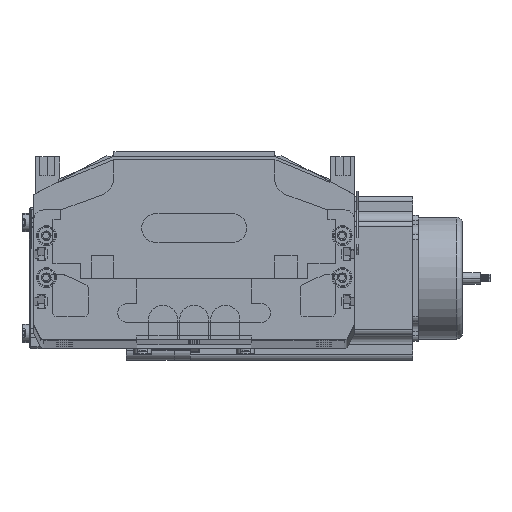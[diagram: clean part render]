
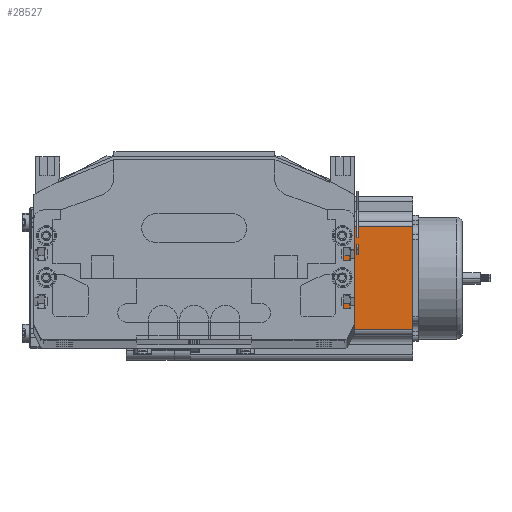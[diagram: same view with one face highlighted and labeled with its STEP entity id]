
A CAD part, top view. The second image highlights one B-rep face of the part: STEP entity #28527.
In plain terms, the highlighted planar face has unit normal (0, 0, 1) as drawn and (0, -1, 0) by its records, which use the part's own axes.
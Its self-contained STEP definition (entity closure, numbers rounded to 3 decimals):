
#28342 = VERTEX_POINT ( 'NONE', #52797 ) ;
#28479 = EDGE_LOOP ( 'NONE', ( #28836, #28791, #28725, #28488 ) ) ;
#28488 = ORIENTED_EDGE ( 'NONE', *, *, #28803, .T. ) ;
#28527 = ADVANCED_FACE ( 'NONE', ( #53738 ), #53723, .F. ) ;
#28652 = VERTEX_POINT ( 'NONE', #54513 ) ;
#28722 = VERTEX_POINT ( 'NONE', #55055 ) ;
#28725 = ORIENTED_EDGE ( 'NONE', *, *, #28795, .F. ) ;
#28784 = EDGE_CURVE ( 'NONE', #28652, #28342, #55777, .T. ) ;
#28791 = ORIENTED_EDGE ( 'NONE', *, *, #28843, .T. ) ;
#28795 = EDGE_CURVE ( 'NONE', #28841, #28722, #55771, .T. ) ;
#28803 = EDGE_CURVE ( 'NONE', #28841, #28652, #54359, .T. ) ;
#28836 = ORIENTED_EDGE ( 'NONE', *, *, #28784, .T. ) ;
#28841 = VERTEX_POINT ( 'NONE', #56637 ) ;
#28843 = EDGE_CURVE ( 'NONE', #28342, #28722, #56630, .T. ) ;
#52797 = CARTESIAN_POINT ( 'NONE',  ( 69.74, 0., 0. ) ) ;
#53719 = DIRECTION ( 'NONE',  ( 0., 0., 1. ) ) ;
#53720 = DIRECTION ( 'NONE',  ( 0., 1., 0. ) ) ;
#53721 = CARTESIAN_POINT ( 'NONE',  ( 0., 0., 116.5 ) ) ;
#53722 = AXIS2_PLACEMENT_3D ( 'NONE', #53721, #53720, #53719 ) ;
#53723 = PLANE ( 'NONE',  #53722 ) ;
#53738 = FACE_OUTER_BOUND ( 'NONE', #28479, .T. ) ;
#54357 = DIRECTION ( 'NONE',  ( 0., 0., -1. ) ) ;
#54358 = VECTOR ( 'NONE', #54357, 1000. ) ;
#54359 = LINE ( 'NONE', #54382, #54358 ) ;
#54382 = CARTESIAN_POINT ( 'NONE',  ( 16.16, 0., 116.5 ) ) ;
#54513 = CARTESIAN_POINT ( 'NONE',  ( 16.16, 0., 0. ) ) ;
#55055 = CARTESIAN_POINT ( 'NONE',  ( 69.74, 0., 116.5 ) ) ;
#55768 = DIRECTION ( 'NONE',  ( 1., 0., 0. ) ) ;
#55769 = VECTOR ( 'NONE', #55768, 1000. ) ;
#55770 = CARTESIAN_POINT ( 'NONE',  ( 0., 0., 116.5 ) ) ;
#55771 = LINE ( 'NONE', #55770, #55769 ) ;
#55773 = DIRECTION ( 'NONE',  ( 1., 0., 0. ) ) ;
#55775 = VECTOR ( 'NONE', #55773, 1000. ) ;
#55776 = CARTESIAN_POINT ( 'NONE',  ( 0., 0., 0. ) ) ;
#55777 = LINE ( 'NONE', #55776, #55775 ) ;
#56615 = DIRECTION ( 'NONE',  ( 0., 0., 1. ) ) ;
#56616 = VECTOR ( 'NONE', #56615, 1000. ) ;
#56617 = CARTESIAN_POINT ( 'NONE',  ( 69.74, 0., 116.5 ) ) ;
#56630 = LINE ( 'NONE', #56617, #56616 ) ;
#56637 = CARTESIAN_POINT ( 'NONE',  ( 16.16, 0., 116.5 ) ) ;
